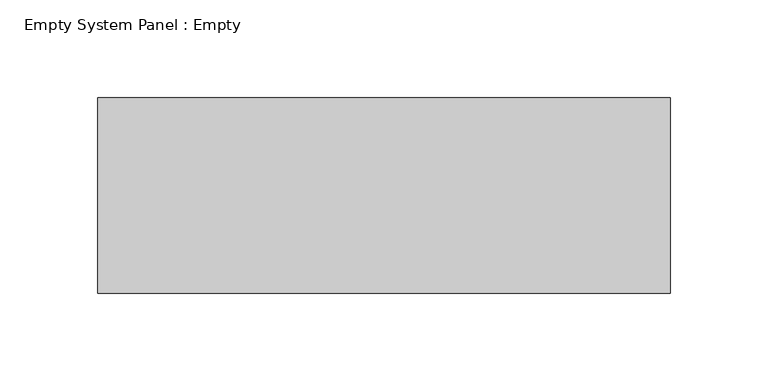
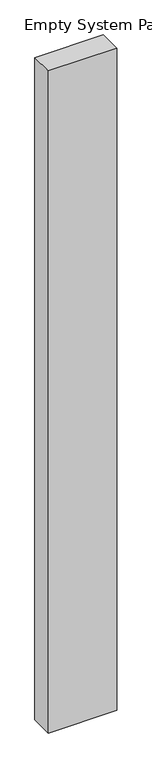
"""IFC4 building model written with IfcOpenShell, lengths in millimetres: plate geometry, Empty System Panel : Empty."""

from ifc_helpers import new_model, si_unit, origin, origin_with_axes, place, context, project, spatial, polyline, outline, extrude, source, transform, mapped, element, save


def empty_system_panel_empty_d6a9d873(model_context):
    return source(origin(), model_context, "Body", "SweptSolid", [
        extrude(outline(polyline([(146.5, -50.0), (-146.5, -50.0), (-146.5, 50.0), (146.5, 50.0), (146.5, -50.0)])), origin_with_axes(), (0.0, 0.0, 1.0), 3000.0),
    ])


if __name__ == "__main__":
    model = new_model("IFC4")
    model_context = context("Model", 3, world=origin())
    ifc_project = project(units=[si_unit("LENGTHUNIT", "METRE", prefix="MILLI")], contexts=[model_context])
    site = spatial("IfcSite", under=ifc_project)
    building = spatial("IfcBuilding", under=site)
    placement = place(None, origin())
    empty_system_panel_empty_shape = empty_system_panel_empty_d6a9d873(model_context)
    element("IfcPlate", 1, ObjectType="Empty System Panel : Empty", at=placement, inside=building, context=model_context, shape_type="MappedRepresentation", body=[
        mapped(empty_system_panel_empty_shape, transform((0.0, 0.0, 0.0), x_axis=(1.0, 0.0, 0.0), y_axis=(0.0, 1.0, 0.0), z_axis=(0.0, 0.0, 1.0))),
    ])
    save(model, "model.ifc")
